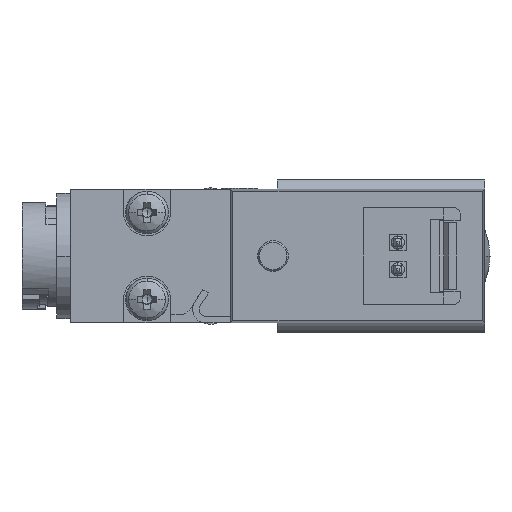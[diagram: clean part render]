
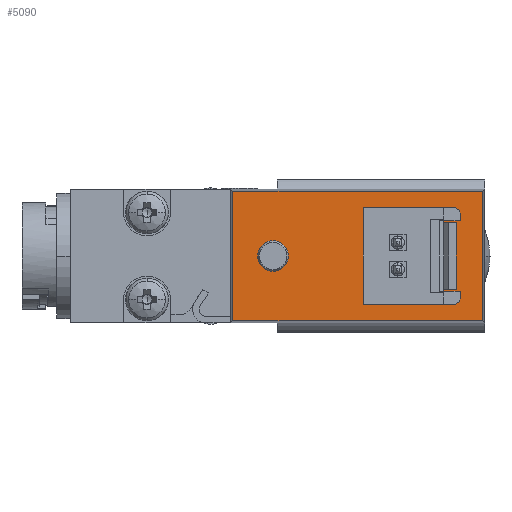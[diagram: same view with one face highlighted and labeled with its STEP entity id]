
A CAD part, left-side view. The second image highlights one B-rep face of the part: STEP entity #5090.
In plain terms, the highlighted planar face has unit normal (-1, 0, 0) as drawn and (0, 0, 1) by its records, which use the part's own axes.
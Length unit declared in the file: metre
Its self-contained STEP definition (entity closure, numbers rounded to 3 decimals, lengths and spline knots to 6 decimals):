
#33 = DIRECTION ( 'NONE',  ( -1., 0., 0. ) ) ;
#229 = ORIENTED_EDGE ( 'NONE', *, *, #11512, .T. ) ;
#272 = DIRECTION ( 'NONE',  ( 1., 0., 0. ) ) ;
#401 = LINE ( 'NONE', #7001, #14923 ) ;
#429 = LINE ( 'NONE', #14335, #13184 ) ;
#1063 = EDGE_CURVE ( 'NONE', #12206, #9560, #1206, .T. ) ;
#1206 = LINE ( 'NONE', #2429, #13938 ) ;
#1294 = EDGE_CURVE ( 'NONE', #9560, #5108, #401, .T. ) ;
#1440 = CARTESIAN_POINT ( 'NONE',  ( 0.0005, 0.0065, 0.005 ) ) ;
#1563 = ORIENTED_EDGE ( 'NONE', *, *, #9159, .F. ) ;
#1632 = CARTESIAN_POINT ( 'NONE',  ( -0.0015, 0.0085, 0.005 ) ) ;
#1695 = ORIENTED_EDGE ( 'NONE', *, *, #15987, .T. ) ;
#2027 = VERTEX_POINT ( 'NONE', #4218 ) ;
#2429 = CARTESIAN_POINT ( 'NONE',  ( 0., 0.001175, 0.005 ) ) ;
#2495 = FACE_BOUND ( 'NONE', #14743, .T. ) ;
#2564 = DIRECTION ( 'NONE',  ( -1., 0., 0. ) ) ;
#2803 = EDGE_LOOP ( 'NONE', ( #12607, #1563 ) ) ;
#2888 = FACE_BOUND ( 'NONE', #15133, .T. ) ;
#3057 = DIRECTION ( 'NONE',  ( -1., 0., 0. ) ) ;
#3383 = CARTESIAN_POINT ( 'NONE',  ( 0.004825, 0.019825, 0.005 ) ) ;
#3844 = EDGE_LOOP ( 'NONE', ( #4572, #13398, #13775, #13617 ) ) ;
#3962 = CARTESIAN_POINT ( 'NONE',  ( 0.0015, 0.0065, 0.005 ) ) ;
#4218 = CARTESIAN_POINT ( 'NONE',  ( 0.0005, 0.0075, 0.005 ) ) ;
#4387 = EDGE_CURVE ( 'NONE', #9529, #12117, #10842, .T. ) ;
#4572 = ORIENTED_EDGE ( 'NONE', *, *, #4949, .F. ) ;
#4938 = AXIS2_PLACEMENT_3D ( 'NONE', #13625, #11092, #2564 ) ;
#4949 = EDGE_CURVE ( 'NONE', #5108, #10804, #10514, .T. ) ;
#5090 = ADVANCED_FACE ( 'NONE', ( #2888, #9365, #2495, #12249 ), #6272, .F. ) ;
#5108 = VERTEX_POINT ( 'NONE', #13563 ) ;
#5312 = CARTESIAN_POINT ( 'NONE',  ( 0., 0.019825, 0.005 ) ) ;
#5345 = CARTESIAN_POINT ( 'NONE',  ( -0.0005, 0.0075, 0.005 ) ) ;
#5363 = VERTEX_POINT ( 'NONE', #14407 ) ;
#5546 = VERTEX_POINT ( 'NONE', #8721 ) ;
#5749 = AXIS2_PLACEMENT_3D ( 'NONE', #14859, #7438, #33 ) ;
#5835 = CARTESIAN_POINT ( 'NONE',  ( 0., 0.016825, 0.005 ) ) ;
#6272 = PLANE ( 'NONE',  #4938 ) ;
#6278 =( BOUNDED_CURVE ( )  B_SPLINE_CURVE ( 3, ( #13038, #10531, #6930, #15593 ),
 .UNSPECIFIED., .F., .F. ) 
 B_SPLINE_CURVE_WITH_KNOTS ( ( 4, 4 ),
 ( 0., 0.001563 ),
 .UNSPECIFIED. ) 
 CURVE ( )  GEOMETRIC_REPRESENTATION_ITEM ( )  RATIONAL_B_SPLINE_CURVE ( ( 0.957, 0.319, 0.319, 0.957 ) ) 
 REPRESENTATION_ITEM ( '' )  );
#6556 = CARTESIAN_POINT ( 'NONE',  ( -0.0005, 0.0085, 0.005 ) ) ;
#6581 = CIRCLE ( 'NONE', #13066, 0.00115 ) ;
#6930 = CARTESIAN_POINT ( 'NONE',  ( 0.0005, 0.0085, 0.005 ) ) ;
#7001 = CARTESIAN_POINT ( 'NONE',  ( -0.004825, 0.0105, 0.005 ) ) ;
#7037 = DIRECTION ( 'NONE',  ( -1., 0., 0. ) ) ;
#7100 = DIRECTION ( 'NONE',  ( 0., 1., 0. ) ) ;
#7274 = VECTOR ( 'NONE', #272, 1. ) ;
#7306 =( BOUNDED_CURVE ( )  B_SPLINE_CURVE ( 3, ( #5345, #6556, #1632, #10199 ),
 .UNSPECIFIED., .F., .F. ) 
 B_SPLINE_CURVE_WITH_KNOTS ( ( 4, 4 ),
 ( 0., 0.001563 ),
 .UNSPECIFIED. ) 
 CURVE ( )  GEOMETRIC_REPRESENTATION_ITEM ( )  RATIONAL_B_SPLINE_CURVE ( ( 0.957, 0.319, 0.319, 0.957 ) ) 
 REPRESENTATION_ITEM ( '' )  );
#7438 = DIRECTION ( 'NONE',  ( 0., 0., -1. ) ) ;
#7521 = EDGE_CURVE ( 'NONE', #12117, #9529, #7306, .T. ) ;
#7758 = VERTEX_POINT ( 'NONE', #15640 ) ;
#7784 =( BOUNDED_CURVE ( )  B_SPLINE_CURVE ( 3, ( #10009, #1440, #3962, #12489 ),
 .UNSPECIFIED., .F., .F. ) 
 B_SPLINE_CURVE_WITH_KNOTS ( ( 4, 4 ),
 ( 0., 0.001563 ),
 .UNSPECIFIED. ) 
 CURVE ( )  GEOMETRIC_REPRESENTATION_ITEM ( )  RATIONAL_B_SPLINE_CURVE ( ( 0.957, 0.319, 0.319, 0.957 ) ) 
 REPRESENTATION_ITEM ( '' )  );
#8262 = CARTESIAN_POINT ( 'NONE',  ( 0.004825, 0.001175, 0.005 ) ) ;
#8721 = CARTESIAN_POINT ( 'NONE',  ( -0.00115, 0.016825, 0.005 ) ) ;
#8802 = EDGE_CURVE ( 'NONE', #10804, #12206, #429, .T. ) ;
#9159 = EDGE_CURVE ( 'NONE', #2027, #7758, #7784, .T. ) ;
#9365 = FACE_BOUND ( 'NONE', #2803, .T. ) ;
#9529 = VERTEX_POINT ( 'NONE', #15871 ) ;
#9560 = VERTEX_POINT ( 'NONE', #14602 ) ;
#10009 = CARTESIAN_POINT ( 'NONE',  ( 0.0005, 0.0075, 0.005 ) ) ;
#10199 = CARTESIAN_POINT ( 'NONE',  ( -0.0015, 0.0075, 0.005 ) ) ;
#10514 = LINE ( 'NONE', #5312, #7274 ) ;
#10531 = CARTESIAN_POINT ( 'NONE',  ( 0.0015, 0.0085, 0.005 ) ) ;
#10804 = VERTEX_POINT ( 'NONE', #3383 ) ;
#10842 =( BOUNDED_CURVE ( )  B_SPLINE_CURVE ( 3, ( #14011, #12725, #14861, #15027 ),
 .UNSPECIFIED., .F., .F. ) 
 B_SPLINE_CURVE_WITH_KNOTS ( ( 4, 4 ),
 ( 0., 0.001563 ),
 .UNSPECIFIED. ) 
 CURVE ( )  GEOMETRIC_REPRESENTATION_ITEM ( )  RATIONAL_B_SPLINE_CURVE ( ( 0.957, 0.319, 0.319, 0.957 ) ) 
 REPRESENTATION_ITEM ( '' )  );
#11092 = DIRECTION ( 'NONE',  ( 0., 0., -1. ) ) ;
#11512 = EDGE_CURVE ( 'NONE', #5363, #5546, #6581, .T. ) ;
#11805 = CARTESIAN_POINT ( 'NONE',  ( -0.0005, 0.0075, 0.005 ) ) ;
#11862 = DIRECTION ( 'NONE',  ( 0., -1., 0. ) ) ;
#12117 = VERTEX_POINT ( 'NONE', #11805 ) ;
#12206 = VERTEX_POINT ( 'NONE', #8262 ) ;
#12249 = FACE_OUTER_BOUND ( 'NONE', #3844, .T. ) ;
#12489 = CARTESIAN_POINT ( 'NONE',  ( 0.0015, 0.0075, 0.005 ) ) ;
#12607 = ORIENTED_EDGE ( 'NONE', *, *, #13499, .F. ) ;
#12725 = CARTESIAN_POINT ( 'NONE',  ( -0.0015, 0.0065, 0.005 ) ) ;
#13038 = CARTESIAN_POINT ( 'NONE',  ( 0.0015, 0.0075, 0.005 ) ) ;
#13066 = AXIS2_PLACEMENT_3D ( 'NONE', #5835, #14428, #7037 ) ;
#13184 = VECTOR ( 'NONE', #11862, 1. ) ;
#13398 = ORIENTED_EDGE ( 'NONE', *, *, #1294, .F. ) ;
#13499 = EDGE_CURVE ( 'NONE', #7758, #2027, #6278, .T. ) ;
#13519 = ORIENTED_EDGE ( 'NONE', *, *, #7521, .F. ) ;
#13563 = CARTESIAN_POINT ( 'NONE',  ( -0.004825, 0.019825, 0.005 ) ) ;
#13617 = ORIENTED_EDGE ( 'NONE', *, *, #8802, .F. ) ;
#13625 = CARTESIAN_POINT ( 'NONE',  ( 0.004825, 0.001175, 0.005 ) ) ;
#13775 = ORIENTED_EDGE ( 'NONE', *, *, #1063, .F. ) ;
#13919 = ORIENTED_EDGE ( 'NONE', *, *, #4387, .F. ) ;
#13938 = VECTOR ( 'NONE', #3057, 1. ) ;
#14011 = CARTESIAN_POINT ( 'NONE',  ( -0.0015, 0.0075, 0.005 ) ) ;
#14335 = CARTESIAN_POINT ( 'NONE',  ( 0.004825, 0.0105, 0.005 ) ) ;
#14407 = CARTESIAN_POINT ( 'NONE',  ( 0.00115, 0.016825, 0.005 ) ) ;
#14428 = DIRECTION ( 'NONE',  ( 0., 0., -1. ) ) ;
#14602 = CARTESIAN_POINT ( 'NONE',  ( -0.004825, 0.001175, 0.005 ) ) ;
#14743 = EDGE_LOOP ( 'NONE', ( #13919, #13519 ) ) ;
#14859 = CARTESIAN_POINT ( 'NONE',  ( 0., 0.016825, 0.005 ) ) ;
#14861 = CARTESIAN_POINT ( 'NONE',  ( -0.0005, 0.0065, 0.005 ) ) ;
#14923 = VECTOR ( 'NONE', #7100, 1. ) ;
#15027 = CARTESIAN_POINT ( 'NONE',  ( -0.0005, 0.0075, 0.005 ) ) ;
#15133 = EDGE_LOOP ( 'NONE', ( #1695, #229 ) ) ;
#15593 = CARTESIAN_POINT ( 'NONE',  ( 0.0005, 0.0075, 0.005 ) ) ;
#15640 = CARTESIAN_POINT ( 'NONE',  ( 0.0015, 0.0075, 0.005 ) ) ;
#15871 = CARTESIAN_POINT ( 'NONE',  ( -0.0015, 0.0075, 0.005 ) ) ;
#15909 = CIRCLE ( 'NONE', #5749, 0.00115 ) ;
#15987 = EDGE_CURVE ( 'NONE', #5546, #5363, #15909, .T. ) ;
